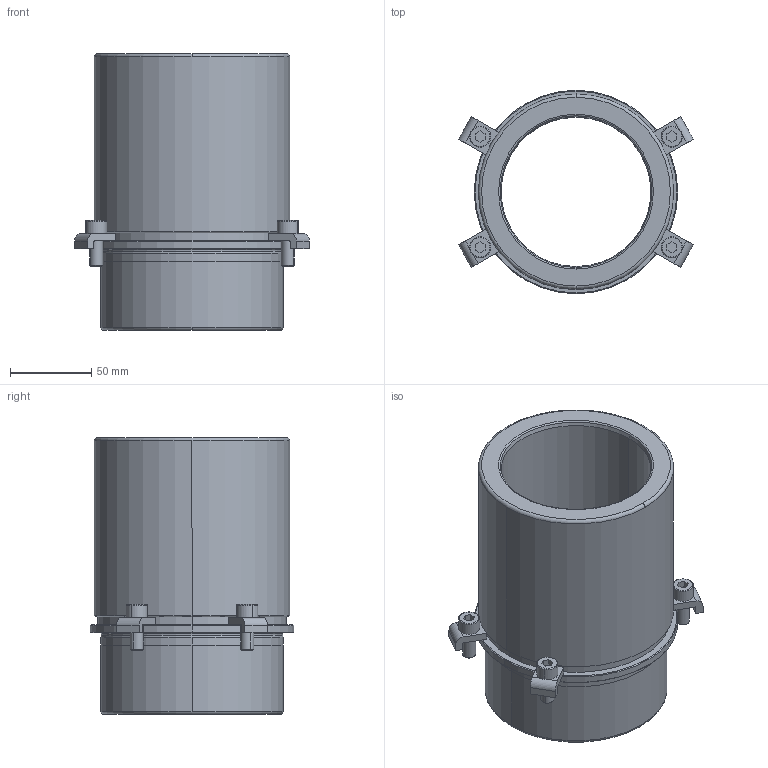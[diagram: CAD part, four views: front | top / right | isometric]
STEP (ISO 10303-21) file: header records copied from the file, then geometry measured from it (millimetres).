
FILE_DESCRIPTION((''),'2;1');
FILE_NAME('B40_080_120.stp','2009-01-05T16:45:01',(''),(''),'Mechanical Desktop 2009','Mechanical Desktop 2009',', , ');
FILE_SCHEMA(('CONFIG_CONTROL_DESIGN'));
Length unit declared in the file: millimetre
Products named in the file (2): Product; blmdl1
Assembly tree (1 placements, depth 2):
  Product
    blmdl1
Bounding box: 144.26 x 125 x 170 mm (x, y, z)
Volume: 732849.4 mm3; surface area: 132223.4 mm2
Topology: 9 solids, 9 shells, 173 faces, 422 edges, 278 vertices
Faces by surface type: plane 77, cylinder 46, cone 22, torus 16, bspline 12
Entity records: 5759 total; most frequent: CARTESIAN_POINT 1403, DIRECTION 958, ORIENTED_EDGE 844, EDGE_CURVE 422, AXIS2_PLACEMENT_3D 373, VERTEX_POINT 278, VECTOR 212, LINE 212
